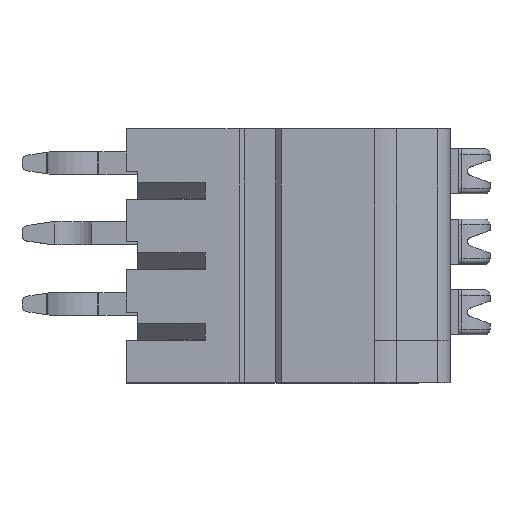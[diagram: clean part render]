
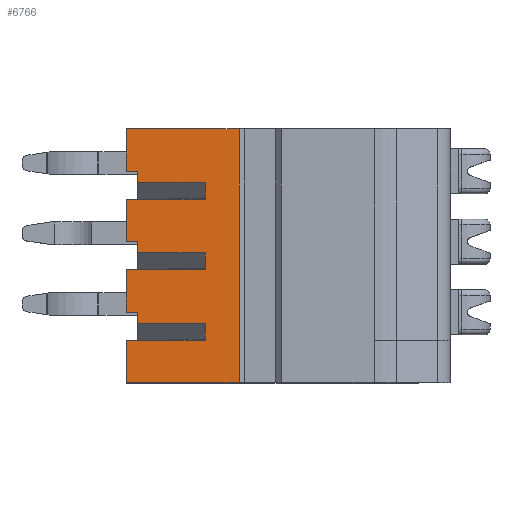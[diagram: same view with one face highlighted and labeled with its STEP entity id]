
A CAD part, top view. The second image highlights one B-rep face of the part: STEP entity #6766.
In plain terms, the highlighted planar face has unit normal (0, 0, 1).
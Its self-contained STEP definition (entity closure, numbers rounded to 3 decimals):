
#590=DIRECTION('',(0.,1.,0.));
#591=VECTOR('',#590,9.);
#592=CARTESIAN_POINT('',(4.,0.,0.));
#593=LINE('',#592,#591);
#594=DIRECTION('',(1.,0.,0.));
#595=VECTOR('',#594,2.8);
#596=CARTESIAN_POINT('',(0.,6.5,0.));
#597=LINE('',#596,#595);
#598=DIRECTION('',(-1.,0.,0.));
#599=VECTOR('',#598,2.4);
#600=CARTESIAN_POINT('',(2.8,7.1,0.));
#601=LINE('',#600,#599);
#602=DIRECTION('',(0.,1.,0.));
#603=VECTOR('',#602,0.4);
#604=CARTESIAN_POINT('',(0.4,7.1,0.));
#605=LINE('',#604,#603);
#606=DIRECTION('',(1.,0.,0.));
#607=VECTOR('',#606,4.);
#608=CARTESIAN_POINT('',(0.,9.,0.));
#609=LINE('',#608,#607);
#610=DIRECTION('',(1.,0.,0.));
#611=VECTOR('',#610,2.8);
#612=CARTESIAN_POINT('',(0.,1.5,0.));
#613=LINE('',#612,#611);
#614=DIRECTION('',(-1.,0.,0.));
#615=VECTOR('',#614,2.4);
#616=CARTESIAN_POINT('',(2.8,2.1,0.));
#617=LINE('',#616,#615);
#618=DIRECTION('',(0.,1.,0.));
#619=VECTOR('',#618,0.4);
#620=CARTESIAN_POINT('',(0.4,2.1,0.));
#621=LINE('',#620,#619);
#622=DIRECTION('',(1.,0.,0.));
#623=VECTOR('',#622,2.8);
#624=CARTESIAN_POINT('',(0.,4.,0.));
#625=LINE('',#624,#623);
#626=DIRECTION('',(-1.,0.,0.));
#627=VECTOR('',#626,2.4);
#628=CARTESIAN_POINT('',(2.8,4.6,0.));
#629=LINE('',#628,#627);
#630=DIRECTION('',(0.,1.,0.));
#631=VECTOR('',#630,0.4);
#632=CARTESIAN_POINT('',(0.4,4.6,0.));
#633=LINE('',#632,#631);
#650=DIRECTION('',(0.,-1.,0.));
#651=VECTOR('',#650,0.6);
#652=CARTESIAN_POINT('',(2.8,7.1,0.));
#653=LINE('',#652,#651);
#678=DIRECTION('',(0.,-1.,0.));
#679=VECTOR('',#678,1.5);
#680=CARTESIAN_POINT('',(0.,6.5,0.));
#681=LINE('',#680,#679);
#694=DIRECTION('',(1.,0.,0.));
#695=VECTOR('',#694,0.4);
#696=CARTESIAN_POINT('',(0.,5.,0.));
#697=LINE('',#696,#695);
#714=DIRECTION('',(1.,0.,0.));
#715=VECTOR('',#714,0.4);
#716=CARTESIAN_POINT('',(0.,7.5,0.));
#717=LINE('',#716,#715);
#860=DIRECTION('',(0.,-1.,0.));
#861=VECTOR('',#860,1.5);
#862=CARTESIAN_POINT('',(0.,9.,0.));
#863=LINE('',#862,#861);
#1493=DIRECTION('',(1.,0.,0.));
#1494=VECTOR('',#1493,4.);
#1495=CARTESIAN_POINT('',(0.,0.,0.));
#1496=LINE('',#1495,#1494);
#2223=DIRECTION('',(0.,-1.,0.));
#2224=VECTOR('',#2223,0.6);
#2225=CARTESIAN_POINT('',(2.8,2.1,0.));
#2226=LINE('',#2225,#2224);
#2247=DIRECTION('',(0.,-1.,0.));
#2248=VECTOR('',#2247,1.5);
#2249=CARTESIAN_POINT('',(0.,1.5,0.));
#2250=LINE('',#2249,#2248);
#2605=DIRECTION('',(1.,0.,0.));
#2606=VECTOR('',#2605,0.4);
#2607=CARTESIAN_POINT('',(0.,2.5,0.));
#2608=LINE('',#2607,#2606);
#2637=DIRECTION('',(0.,-1.,0.));
#2638=VECTOR('',#2637,0.6);
#2639=CARTESIAN_POINT('',(2.8,4.6,0.));
#2640=LINE('',#2639,#2638);
#2665=DIRECTION('',(0.,-1.,0.));
#2666=VECTOR('',#2665,1.5);
#2667=CARTESIAN_POINT('',(0.,4.,0.));
#2668=LINE('',#2667,#2666);
#4836=CARTESIAN_POINT('',(2.8,1.5,0.));
#4837=VERTEX_POINT('',#4836);
#4838=CARTESIAN_POINT('',(0.,1.5,0.));
#4839=VERTEX_POINT('',#4838);
#5001=CARTESIAN_POINT('',(4.,0.,0.));
#5002=CARTESIAN_POINT('',(4.,9.,0.));
#5003=VERTEX_POINT('',#5001);
#5004=VERTEX_POINT('',#5002);
#5005=CARTESIAN_POINT('',(0.,6.5,0.));
#5006=CARTESIAN_POINT('',(2.8,6.5,0.));
#5007=VERTEX_POINT('',#5005);
#5008=VERTEX_POINT('',#5006);
#5009=CARTESIAN_POINT('',(2.8,7.1,0.));
#5010=VERTEX_POINT('',#5009);
#5011=CARTESIAN_POINT('',(0.4,7.1,0.));
#5012=VERTEX_POINT('',#5011);
#5013=CARTESIAN_POINT('',(0.4,7.5,0.));
#5014=VERTEX_POINT('',#5013);
#5015=CARTESIAN_POINT('',(0.,7.5,0.));
#5016=VERTEX_POINT('',#5015);
#5017=CARTESIAN_POINT('',(0.,9.,0.));
#5018=VERTEX_POINT('',#5017);
#5019=CARTESIAN_POINT('',(0.,0.,0.));
#5020=VERTEX_POINT('',#5019);
#5021=CARTESIAN_POINT('',(2.8,2.1,0.));
#5022=VERTEX_POINT('',#5021);
#5023=CARTESIAN_POINT('',(0.4,2.1,0.));
#5024=VERTEX_POINT('',#5023);
#5025=CARTESIAN_POINT('',(0.4,2.5,0.));
#5026=VERTEX_POINT('',#5025);
#5027=CARTESIAN_POINT('',(0.,2.5,0.));
#5028=VERTEX_POINT('',#5027);
#5029=CARTESIAN_POINT('',(0.,4.,0.));
#5030=VERTEX_POINT('',#5029);
#5031=CARTESIAN_POINT('',(2.8,4.,0.));
#5032=VERTEX_POINT('',#5031);
#5033=CARTESIAN_POINT('',(2.8,4.6,0.));
#5034=VERTEX_POINT('',#5033);
#5035=CARTESIAN_POINT('',(0.4,4.6,0.));
#5036=VERTEX_POINT('',#5035);
#5037=CARTESIAN_POINT('',(0.4,5.,0.));
#5038=VERTEX_POINT('',#5037);
#5039=CARTESIAN_POINT('',(0.,5.,0.));
#5040=VERTEX_POINT('',#5039);
#6719=CARTESIAN_POINT('',(0.4,0.,0.));
#6720=DIRECTION('',(0.,0.,1.));
#6721=DIRECTION('',(1.,0.,0.));
#6722=AXIS2_PLACEMENT_3D('',#6719,#6720,#6721);
#6723=PLANE('',#6722);
#6725=ORIENTED_EDGE('',*,*,#6724,.T.);
#6727=ORIENTED_EDGE('',*,*,#6726,.F.);
#6729=ORIENTED_EDGE('',*,*,#6728,.T.);
#6730=ORIENTED_EDGE('',*,*,#6188,.T.);
#6732=ORIENTED_EDGE('',*,*,#6731,.F.);
#6734=ORIENTED_EDGE('',*,*,#6733,.F.);
#6736=ORIENTED_EDGE('',*,*,#6735,.T.);
#6737=ORIENTED_EDGE('',*,*,#6709,.F.);
#6739=ORIENTED_EDGE('',*,*,#6738,.F.);
#6741=ORIENTED_EDGE('',*,*,#6740,.F.);
#6743=ORIENTED_EDGE('',*,*,#6742,.T.);
#6745=ORIENTED_EDGE('',*,*,#6744,.F.);
#6747=ORIENTED_EDGE('',*,*,#6746,.T.);
#6748=ORIENTED_EDGE('',*,*,#6208,.T.);
#6750=ORIENTED_EDGE('',*,*,#6749,.F.);
#6752=ORIENTED_EDGE('',*,*,#6751,.F.);
#6754=ORIENTED_EDGE('',*,*,#6753,.T.);
#6756=ORIENTED_EDGE('',*,*,#6755,.F.);
#6758=ORIENTED_EDGE('',*,*,#6757,.T.);
#6759=ORIENTED_EDGE('',*,*,#6198,.T.);
#6761=ORIENTED_EDGE('',*,*,#6760,.F.);
#6763=ORIENTED_EDGE('',*,*,#6762,.F.);
#6764=EDGE_LOOP('',(#6725,#6727,#6729,#6730,#6732,#6734,#6736,#6737,#6739,#6741,
#6743,#6745,#6747,#6748,#6750,#6752,#6754,#6756,#6758,#6759,#6761,#6763));
#6765=FACE_OUTER_BOUND('',#6764,.F.);
#6766=ADVANCED_FACE('',(#6765),#6723,.T.);
#6188=EDGE_CURVE('',#5012,#5014,#605,.T.);
#6198=EDGE_CURVE('',#5036,#5038,#633,.T.);
#6208=EDGE_CURVE('',#5024,#5026,#621,.T.);
#6709=EDGE_CURVE('',#5003,#5004,#593,.T.);
#6724=EDGE_CURVE('',#5007,#5008,#597,.T.);
#6726=EDGE_CURVE('',#5010,#5008,#653,.T.);
#6728=EDGE_CURVE('',#5010,#5012,#601,.T.);
#6731=EDGE_CURVE('',#5016,#5014,#717,.T.);
#6733=EDGE_CURVE('',#5018,#5016,#863,.T.);
#6735=EDGE_CURVE('',#5018,#5004,#609,.T.);
#6738=EDGE_CURVE('',#5020,#5003,#1496,.T.);
#6740=EDGE_CURVE('',#4839,#5020,#2250,.T.);
#6742=EDGE_CURVE('',#4839,#4837,#613,.T.);
#6744=EDGE_CURVE('',#5022,#4837,#2226,.T.);
#6746=EDGE_CURVE('',#5022,#5024,#617,.T.);
#6749=EDGE_CURVE('',#5028,#5026,#2608,.T.);
#6751=EDGE_CURVE('',#5030,#5028,#2668,.T.);
#6753=EDGE_CURVE('',#5030,#5032,#625,.T.);
#6755=EDGE_CURVE('',#5034,#5032,#2640,.T.);
#6757=EDGE_CURVE('',#5034,#5036,#629,.T.);
#6760=EDGE_CURVE('',#5040,#5038,#697,.T.);
#6762=EDGE_CURVE('',#5007,#5040,#681,.T.);
